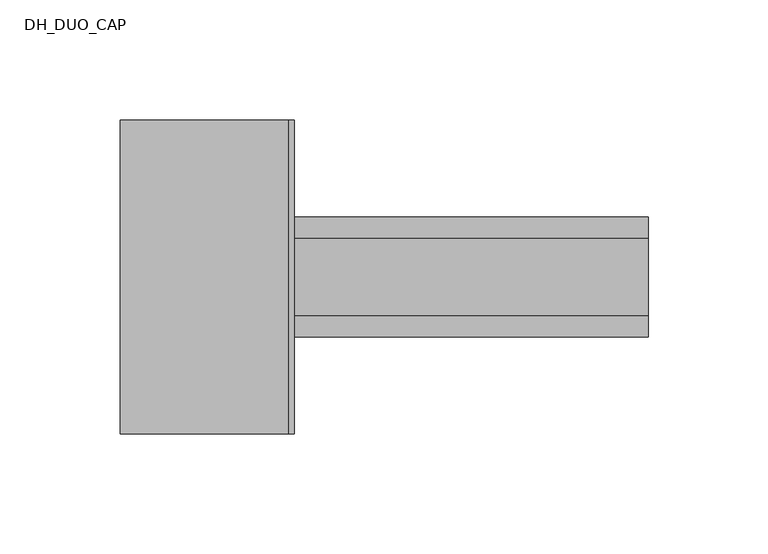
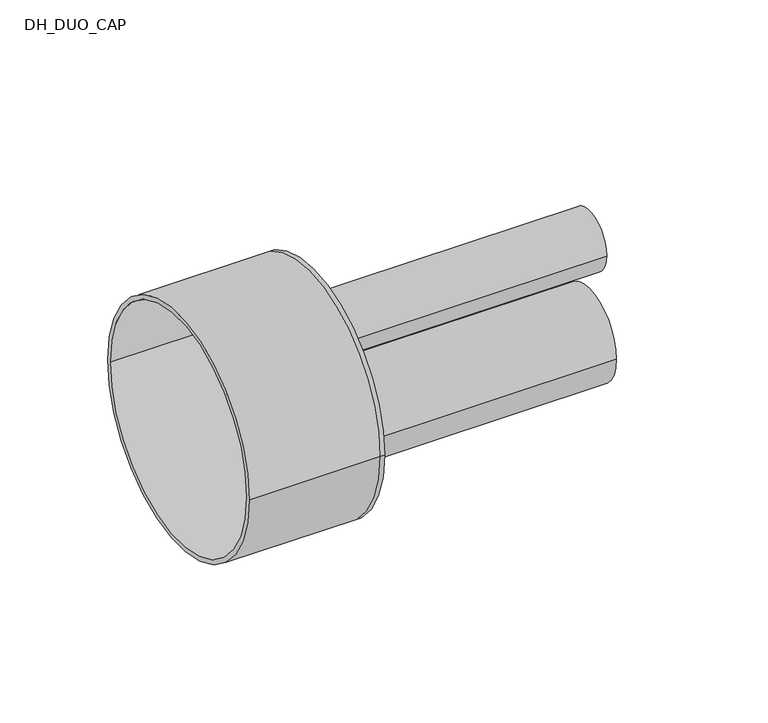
"""IFC4 building model written with IfcOpenShell, lengths in millimetres: pipe fitting geometry, DH_DUO_CAP : RAUTHERMEX DUO 7.4 DW - Solid Cap."""

from ifc_helpers import new_model, si_unit, point, frame, frame_2d, origin, place, context, project, spatial, polyline, circle_curve, trimmed, segment, composite_curve, outline, extrude, source, transform, mapped, element, save
from ifc_brep_helpers import plane_surface, cylinder_surface, revolved_surface, advanced_brep


def dh_duo_cap_7b3fe66b(model_context):
    return source(origin(), model_context, "Body", "SolidModel", [
        extrude(outline(composite_curve([segment(trimmed(circle_curve(frame_2d((0.0, -22.0)), 25.0), [point((-25.0, -22.0))], [point((25.0, -22.0))], False, "CARTESIAN"), True, "CONTINUOUS"), segment(trimmed(circle_curve(frame_2d((0.0, -22.0)), 25.0), [point((25.0, -22.0))], [point((-25.0, -22.0))], False, "CARTESIAN"), True, "CONTINUOUS")], self_intersect=False), holes=[composite_curve([segment(trimmed(circle_curve(frame_2d((0.0, -22.0)), 18.1), [point((-18.1, -22.0))], [point((18.1, -22.0))], True, "CARTESIAN"), True, "CONTINUOUS"), segment(trimmed(circle_curve(frame_2d((0.0, -22.0)), 18.1), [point((18.1, -22.0))], [point((-18.1, -22.0))], True, "CARTESIAN"), True, "CONTINUOUS")], self_intersect=False)]), frame((0.0, 0.0, 0.0), z_axis=(1.0, 0.0, 0.0), x_axis=(0.0, 1.0, 0.0)), (0.0, 0.0, 1.0), 150.0),
        extrude(outline(composite_curve([segment(trimmed(circle_curve(frame_2d((0.0, 31.0)), 16.0), [point((-16.0, 31.0))], [point((16.0, 31.0))], False, "CARTESIAN"), True, "CONTINUOUS"), segment(trimmed(circle_curve(frame_2d((0.0, 31.0)), 16.0), [point((16.0, 31.0))], [point((-16.0, 31.0))], False, "CARTESIAN"), True, "CONTINUOUS")], self_intersect=False), holes=[composite_curve([segment(trimmed(circle_curve(frame_2d((0.0, 31.0)), 11.6), [point((-11.6, 31.0))], [point((11.6, 31.0))], True, "CARTESIAN"), True, "CONTINUOUS"), segment(trimmed(circle_curve(frame_2d((0.0, 31.0)), 11.6), [point((11.6, 31.0))], [point((-11.6, 31.0))], True, "CARTESIAN"), True, "CONTINUOUS")], self_intersect=False)]), frame((0.0, 0.0, 0.0), z_axis=(1.0, 0.0, 0.0), x_axis=(0.0, 1.0, 0.0)), (0.0, 0.0, 1.0), 150.0),
        advanced_brep(
        [(-70.0, -65.5, 0.0), (-70.0, 65.5, 0.0), (-70.0, -63.0, 0.0), (-70.0, 63.0, 0.0), (0.0, -63.0, 0.0), (0.0, 63.0, 0.0), (0.0, -65.5, 0.0), (0.0, 65.5, 0.0), (0.0, 16.0, 31.0), (0.0, -16.0, 31.0), (0.0, 25.0, -22.0), (0.0, -25.0, -22.0), (2.5, -65.5, 0.0), (2.5, 65.5, 0.0), (2.5, -16.0, 31.0), (2.5, 16.0, 31.0), (2.5, -25.0, -22.0), (2.5, 25.0, -22.0)],
        [
            (0, 1, circle_curve(frame((-70.0, 0.0, 0.0), z_axis=(-1.0, 0.0, 0.0), x_axis=(0.0, 1.0, 0.0)), 65.5)),
            (1, 0, circle_curve(frame((-70.0, 0.0, 0.0), z_axis=(-1.0, 0.0, 0.0), x_axis=(0.0, 1.0, 0.0)), 65.5)),
            (2, 3, circle_curve(frame((-70.0, 0.0, 0.0), z_axis=(1.0, 0.0, 0.0), x_axis=(0.0, 1.0, 0.0)), 63.0)),
            (3, 2, circle_curve(frame((-70.0, 0.0, 0.0), z_axis=(1.0, 0.0, 0.0), x_axis=(0.0, 1.0, 0.0)), 63.0)),
            (2, 4),
            (4, 5, circle_curve(frame((0.0, 0.0, 0.0), z_axis=(1.0, 0.0, 0.0), x_axis=(0.0, 1.0, 0.0)), 63.0)),
            (5, 3),
            (5, 4, circle_curve(frame((0.0, 0.0, 0.0), z_axis=(1.0, 0.0, 0.0), x_axis=(0.0, 1.0, 0.0)), 63.0)),
            (0, 6),
            (6, 7, circle_curve(frame((0.0, 0.0, 0.0), z_axis=(-1.0, 0.0, 0.0), x_axis=(0.0, 1.0, 0.0)), 65.5)),
            (7, 1),
            (7, 6, circle_curve(frame((0.0, 0.0, 0.0), z_axis=(-1.0, 0.0, 0.0), x_axis=(0.0, 1.0, 0.0)), 65.5)),
            (8, 9, circle_curve(frame((0.0, 0.0, 31.0), z_axis=(1.0, 0.0, 0.0), x_axis=(0.0, 1.0, 0.0)), 16.0)),
            (9, 8, circle_curve(frame((0.0, 0.0, 31.0), z_axis=(1.0, 0.0, 0.0), x_axis=(0.0, 1.0, 0.0)), 16.0)),
            (10, 11, circle_curve(frame((0.0, 0.0, -22.0), z_axis=(1.0, 0.0, 0.0), x_axis=(0.0, 1.0, 0.0)), 25.0)),
            (11, 10, circle_curve(frame((0.0, 0.0, -22.0), z_axis=(1.0, 0.0, 0.0), x_axis=(0.0, 1.0, 0.0)), 25.0)),
            (12, 13, circle_curve(frame((2.5, 0.0, 0.0), z_axis=(1.0, 0.0, 0.0), x_axis=(0.0, 1.0, 0.0)), 65.5)),
            (13, 12, circle_curve(frame((2.5, 0.0, 0.0), z_axis=(1.0, 0.0, 0.0), x_axis=(0.0, 1.0, 0.0)), 65.5)),
            (14, 15, circle_curve(frame((2.5, 0.0, 31.0), z_axis=(-1.0, 0.0, 0.0), x_axis=(0.0, 1.0, 0.0)), 16.0)),
            (15, 14, circle_curve(frame((2.5, 0.0, 31.0), z_axis=(-1.0, 0.0, 0.0), x_axis=(0.0, 1.0, 0.0)), 16.0)),
            (16, 17, circle_curve(frame((2.5, 0.0, -22.0), z_axis=(-1.0, 0.0, 0.0), x_axis=(0.0, 1.0, 0.0)), 25.0)),
            (17, 16, circle_curve(frame((2.5, 0.0, -22.0), z_axis=(-1.0, 0.0, 0.0), x_axis=(0.0, 1.0, 0.0)), 25.0)),
            (13, 7),
            (6, 12),
            (8, 15),
            (14, 9),
            (10, 17),
            (16, 11),
        ],
        [
            plane_surface(frame((-70.0, 0.0, 0.0), z_axis=(-1.0, 0.0, 0.0), x_axis=(0.0, 0.0, 1.0))),
            revolved_surface(polyline([(0.0, 63.0, 0.0), (-70.0, 63.0, 0.0)]), (-70.0, 0.0, 0.0), (1.0, 0.0, 0.0)),
            cylinder_surface(frame((-70.0, 0.0, 0.0), z_axis=(-1.0, 0.0, 0.0), x_axis=(0.0, 1.0, 0.0)), 65.5),
            plane_surface(frame((0.0, 0.0, 0.0), z_axis=(-1.0, 0.0, 0.0), x_axis=(0.0, 0.0, 1.0))),
            plane_surface(frame((2.5, 0.0, 0.0), z_axis=(1.0, 0.0, 0.0), x_axis=(0.0, 0.0, 1.0))),
            cylinder_surface(frame((0.0, 0.0, 0.0), z_axis=(-1.0, 0.0, 0.0), x_axis=(0.0, 1.0, 0.0)), 65.5),
            revolved_surface(polyline([(0.0, 16.0, 31.0), (2.5, 16.0, 31.0)]), (0.0, 0.0, 31.0), (-1.0, 0.0, 0.0)),
            revolved_surface(polyline([(0.0, 25.0, -22.0), (2.5, 25.0, -22.0)]), (0.0, 0.0, -22.0), (-1.0, 0.0, 0.0)),
        ],
        [
            (0, [[1, 2], [3, 4]]),
            (1, [[-3, 5, 6, 7]]),
            (1, [[-4, -7, 8, -5]]),
            (2, [[-1, 9, 10, 11]]),
            (2, [[-2, -11, 12, -9]]),
            (3, [[-6, -8], [13, 14], [15, 16]]),
            (4, [[17, 18], [19, 20], [21, 22]]),
            (5, [[-18, 23, -10, 24]]),
            (5, [[-17, -24, -12, -23]]),
            (6, [[25, -19, 26, -13]]),
            (6, [[-25, -14, -26, -20]]),
            (7, [[27, -21, 28, -15]]),
            (7, [[-27, -16, -28, -22]]),
        ],
    ),
    ])


if __name__ == "__main__":
    model = new_model("IFC4")
    model_context = context("Model", 3, world=origin())
    ifc_project = project(units=[si_unit("LENGTHUNIT", "METRE", prefix="MILLI")], contexts=[model_context])
    site = spatial("IfcSite", under=ifc_project)
    building = spatial("IfcBuilding", under=site)
    placement = place(None, origin())
    dh_duo_cap_shape = dh_duo_cap_7b3fe66b(model_context)
    element("IfcPipeFitting", 1, ObjectType="DH_DUO_CAP : RAUTHERMEX DUO 7.4 DW - Solid Cap", at=placement, inside=building, context=model_context, shape_type="MappedRepresentation", body=[
        mapped(dh_duo_cap_shape, transform((0.0, 0.0, 0.0), x_axis=(1.0, 0.0, 0.0), y_axis=(0.0, 1.0, 0.0), z_axis=(0.0, 0.0, 1.0))),
    ])
    save(model, "model.ifc")
